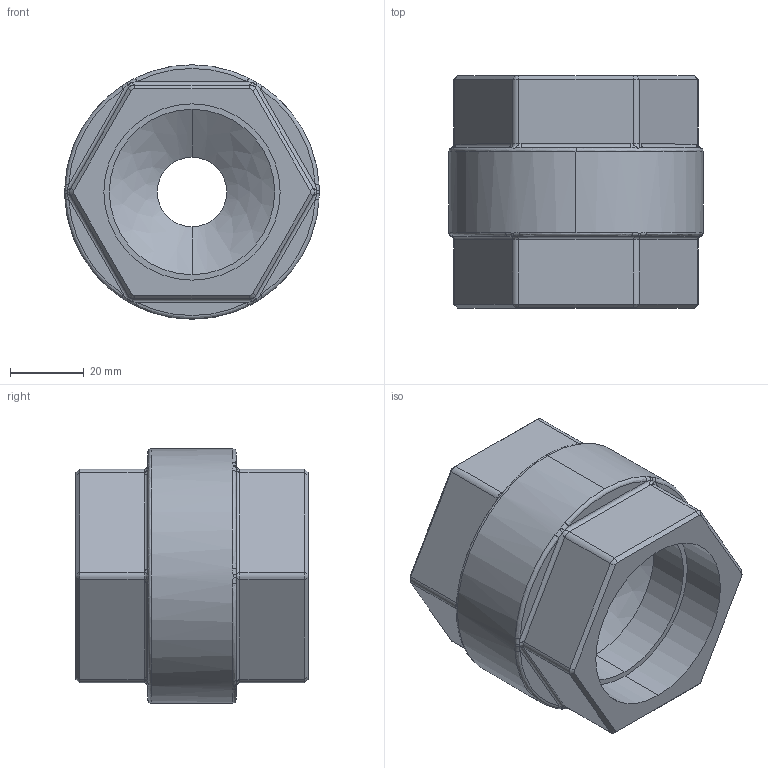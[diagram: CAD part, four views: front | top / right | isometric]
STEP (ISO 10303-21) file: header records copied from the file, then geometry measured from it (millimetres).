
FILE_DESCRIPTION( (''), '2;1');
FILE_NAME ('PC1276.13840.CF-60 40A_12235.stp','2025-12-10T12:53:13',(''),(''),'spGate 20.6.3 (****-****-****-****)','','');
FILE_SCHEMA (('AUTOMOTIVE_DESIGN'));
Length unit declared in the file: millimetre
Bounding box: 69 x 63 x 69 mm (x, y, z)
Volume: 109197.4 mm3; surface area: 26721.4 mm2
Topology: 1 solids, 1 shells, 140 faces, 316 edges, 174 vertices
Faces by surface type: bspline 66, plane 40, cylinder 34
Entity records: 7233 total; most frequent: CARTESIAN_POINT 1966, ORIENTED_EDGE 620, DIRECTION 472, COLOUR_RGB 451, PRESENTATION_STYLE_ASSIGNMENT 451, STYLED_ITEM 451, EDGE_CURVE 310, DRAUGHTING_PRE_DEFINED_CURVE_FONT 310
